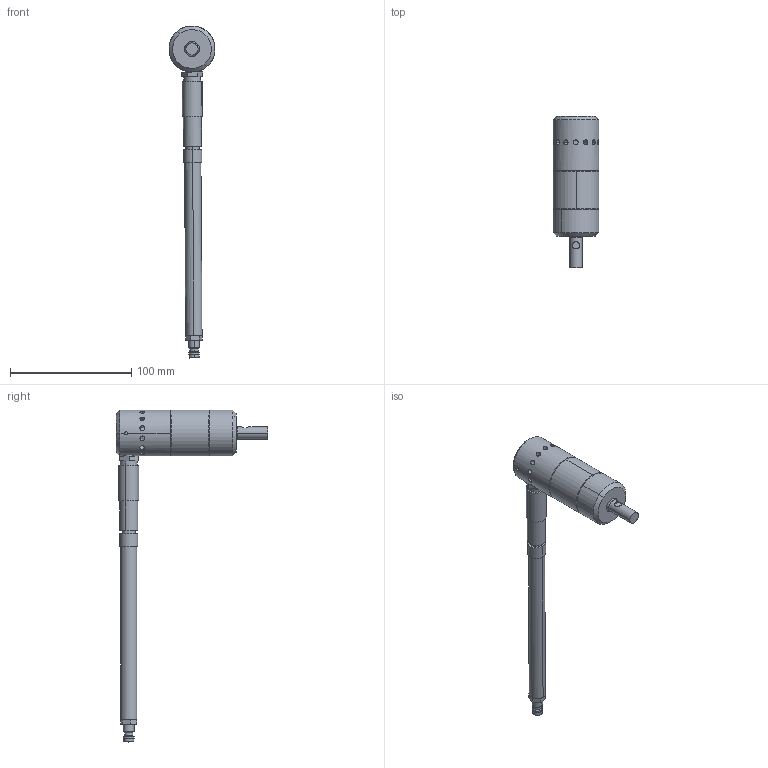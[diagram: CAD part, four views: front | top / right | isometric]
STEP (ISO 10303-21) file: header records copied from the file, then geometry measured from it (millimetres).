
FILE_DESCRIPTION (( 'STEP AP214' ), '1' );
FILE_NAME ('PLR10.STEP', '2018-11-30T13:01:22', ( '' ), ( '' ), 'SwSTEP 2.0', 'SolidWorks 2018', '' );
FILE_SCHEMA (( 'AUTOMOTIVE_DESIGN' ));
Length unit declared in the file: millimetre
Products named in the file (11): Halterohr Standart; Rändelschraube; Schnellkupplung; Halterohr; Kopie von Distanzring PLR 11^PLR10; Kopie von Verschluss PLR 11^PLR10; Kopie von Deckel PLR 11^PLR10; Kopie von Stator PLR 11^PLR10; Kopie von Rotor PLR 11^PLR10; Kopie von Motorblock PLR 11^PLR10; PLR10
Assembly tree (10 placements, depth 3):
  PLR10
    Kopie von Motorblock PLR 11^PLR10
    Kopie von Rotor PLR 11^PLR10
    Kopie von Stator PLR 11^PLR10
    Kopie von Deckel PLR 11^PLR10
    Kopie von Verschluss PLR 11^PLR10
    Kopie von Distanzring PLR 11^PLR10
    Halterohr Standart
      Halterohr
      Schnellkupplung
      Rändelschraube
Bounding box: 38 x 125 x 274.27 mm (x, y, z)
Volume: 148377.3 mm3; surface area: 63356.7 mm2
Topology: 9 solids, 9 shells, 215 faces, 461 edges, 285 vertices
Faces by surface type: cylinder 130, plane 65, cone 18, torus 2
Entity records: 7385 total; most frequent: CARTESIAN_POINT 1999, DIRECTION 1065, ORIENTED_EDGE 918, EDGE_CURVE 459, AXIS2_PLACEMENT_3D 441, VERTEX_POINT 285, EDGE_LOOP 274, FACE_OUTER_BOUND 215
